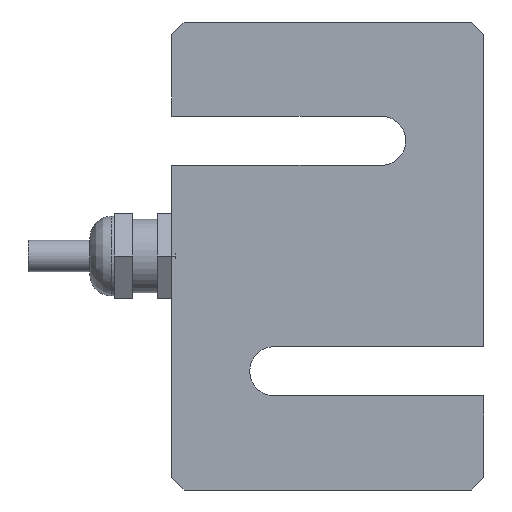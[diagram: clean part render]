
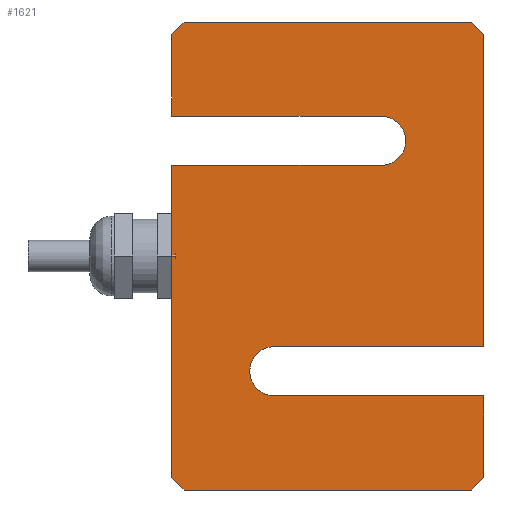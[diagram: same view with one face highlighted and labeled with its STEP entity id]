
A CAD part, front view. The second image highlights one B-rep face of the part: STEP entity #1621.
In plain terms, the highlighted planar face has unit normal (0, -1, 0).
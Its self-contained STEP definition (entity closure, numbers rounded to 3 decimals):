
#142=PLANE('',#1755);
#235=FACE_OUTER_BOUND('',#340,.T.);
#340=EDGE_LOOP('',(#1379,#1380,#1381,#1382,#1383,#1384,#1385,#1386,#1387,
#1388,#1389,#1390,#1391,#1392,#1393,#1394));
#445=LINE('',#6697,#571);
#447=LINE('',#6701,#573);
#450=LINE('',#6707,#576);
#451=LINE('',#6709,#577);
#452=LINE('',#6713,#578);
#453=LINE('',#6715,#579);
#454=LINE('',#6717,#580);
#455=LINE('',#6719,#581);
#456=LINE('',#6721,#582);
#457=LINE('',#6723,#583);
#458=LINE('',#6725,#584);
#459=LINE('',#6729,#585);
#460=LINE('',#6731,#586);
#461=LINE('',#6732,#587);
#571=VECTOR('',#2057,10.);
#573=VECTOR('',#2061,10.);
#576=VECTOR('',#2066,10.);
#577=VECTOR('',#2067,10.);
#578=VECTOR('',#2070,10.);
#579=VECTOR('',#2071,10.);
#580=VECTOR('',#2072,10.);
#581=VECTOR('',#2073,10.);
#582=VECTOR('',#2074,10.);
#583=VECTOR('',#2075,10.);
#584=VECTOR('',#2076,10.);
#585=VECTOR('',#2079,10.);
#586=VECTOR('',#2080,10.);
#587=VECTOR('',#2081,10.);
#640=CIRCLE('',#1756,4.);
#641=CIRCLE('',#1757,4.);
#763=VERTEX_POINT('',#6694);
#764=VERTEX_POINT('',#6696);
#765=VERTEX_POINT('',#6700);
#767=VERTEX_POINT('',#6706);
#768=VERTEX_POINT('',#6708);
#769=VERTEX_POINT('',#6710);
#770=VERTEX_POINT('',#6712);
#771=VERTEX_POINT('',#6714);
#772=VERTEX_POINT('',#6716);
#773=VERTEX_POINT('',#6718);
#774=VERTEX_POINT('',#6720);
#775=VERTEX_POINT('',#6722);
#776=VERTEX_POINT('',#6724);
#777=VERTEX_POINT('',#6726);
#778=VERTEX_POINT('',#6728);
#779=VERTEX_POINT('',#6730);
#975=EDGE_CURVE('',#763,#764,#445,.T.);
#977=EDGE_CURVE('',#765,#764,#447,.T.);
#980=EDGE_CURVE('',#763,#767,#450,.T.);
#981=EDGE_CURVE('',#767,#768,#451,.T.);
#982=EDGE_CURVE('',#768,#769,#640,.T.);
#983=EDGE_CURVE('',#769,#770,#452,.T.);
#984=EDGE_CURVE('',#770,#771,#453,.T.);
#985=EDGE_CURVE('',#772,#771,#454,.T.);
#986=EDGE_CURVE('',#772,#773,#455,.T.);
#987=EDGE_CURVE('',#774,#773,#456,.T.);
#988=EDGE_CURVE('',#774,#775,#457,.T.);
#989=EDGE_CURVE('',#775,#776,#458,.T.);
#990=EDGE_CURVE('',#776,#777,#641,.T.);
#991=EDGE_CURVE('',#777,#778,#459,.T.);
#992=EDGE_CURVE('',#778,#779,#460,.T.);
#993=EDGE_CURVE('',#765,#779,#461,.T.);
#1379=ORIENTED_EDGE('',*,*,#975,.F.);
#1380=ORIENTED_EDGE('',*,*,#980,.T.);
#1381=ORIENTED_EDGE('',*,*,#981,.T.);
#1382=ORIENTED_EDGE('',*,*,#982,.T.);
#1383=ORIENTED_EDGE('',*,*,#983,.T.);
#1384=ORIENTED_EDGE('',*,*,#984,.T.);
#1385=ORIENTED_EDGE('',*,*,#985,.F.);
#1386=ORIENTED_EDGE('',*,*,#986,.T.);
#1387=ORIENTED_EDGE('',*,*,#987,.F.);
#1388=ORIENTED_EDGE('',*,*,#988,.T.);
#1389=ORIENTED_EDGE('',*,*,#989,.T.);
#1390=ORIENTED_EDGE('',*,*,#990,.T.);
#1391=ORIENTED_EDGE('',*,*,#991,.T.);
#1392=ORIENTED_EDGE('',*,*,#992,.T.);
#1393=ORIENTED_EDGE('',*,*,#993,.F.);
#1394=ORIENTED_EDGE('',*,*,#977,.T.);
#1621=ADVANCED_FACE('',(#235),#142,.F.);
#1755=AXIS2_PLACEMENT_3D('',#6705,#2064,#2065);
#1756=AXIS2_PLACEMENT_3D('',#6711,#2068,#2069);
#1757=AXIS2_PLACEMENT_3D('',#6727,#2077,#2078);
#2057=DIRECTION('',(0.707,0.,0.707));
#2061=DIRECTION('',(-1.,0.,0.));
#2064=DIRECTION('center_axis',(0.,1.,0.));
#2065=DIRECTION('ref_axis',(1.,0.,0.));
#2066=DIRECTION('',(0.,0.,-1.));
#2067=DIRECTION('',(1.,0.,0.));
#2068=DIRECTION('center_axis',(0.,1.,0.));
#2069=DIRECTION('ref_axis',(0.,0.,1.));
#2070=DIRECTION('',(-1.,0.,0.));
#2071=DIRECTION('',(0.,0.,-1.));
#2072=DIRECTION('',(-0.707,0.,0.707));
#2073=DIRECTION('',(1.,0.,0.));
#2074=DIRECTION('',(-0.707,0.,-0.707));
#2075=DIRECTION('',(0.,0.,1.));
#2076=DIRECTION('',(-1.,0.,0.));
#2077=DIRECTION('center_axis',(0.,1.,0.));
#2078=DIRECTION('ref_axis',(0.,0.,-1.));
#2079=DIRECTION('',(1.,0.,0.));
#2080=DIRECTION('',(0.,0.,1.));
#2081=DIRECTION('',(0.707,0.,-0.707));
#6694=CARTESIAN_POINT('',(-25.4,-14.1,36.1));
#6696=CARTESIAN_POINT('',(-23.4,-14.1,38.1));
#6697=CARTESIAN_POINT('',(-27.575,-14.1,33.925));
#6700=CARTESIAN_POINT('',(23.4,-14.1,38.1));
#6701=CARTESIAN_POINT('',(25.4,-14.1,38.1));
#6705=CARTESIAN_POINT('Origin',(0.,-14.1,0.));
#6706=CARTESIAN_POINT('',(-25.4,-14.1,22.76));
#6707=CARTESIAN_POINT('',(-25.4,-14.1,38.1));
#6708=CARTESIAN_POINT('',(8.7,-14.1,22.76));
#6709=CARTESIAN_POINT('',(-25.4,-14.1,22.76));
#6710=CARTESIAN_POINT('',(8.7,-14.1,14.76));
#6711=CARTESIAN_POINT('Origin',(8.7,-14.1,18.76));
#6712=CARTESIAN_POINT('',(-25.4,-14.1,14.76));
#6713=CARTESIAN_POINT('',(-25.4,-14.1,14.76));
#6714=CARTESIAN_POINT('',(-25.4,-14.1,-36.1));
#6715=CARTESIAN_POINT('',(-25.4,-14.1,38.1));
#6716=CARTESIAN_POINT('',(-23.4,-14.1,-38.1));
#6717=CARTESIAN_POINT('',(-27.575,-14.1,-33.925));
#6718=CARTESIAN_POINT('',(23.4,-14.1,-38.1));
#6719=CARTESIAN_POINT('',(-25.4,-14.1,-38.1));
#6720=CARTESIAN_POINT('',(25.4,-14.1,-36.1));
#6721=CARTESIAN_POINT('',(27.575,-14.1,-33.925));
#6722=CARTESIAN_POINT('',(25.4,-14.1,-22.76));
#6723=CARTESIAN_POINT('',(25.4,-14.1,-38.1));
#6724=CARTESIAN_POINT('',(-8.7,-14.1,-22.76));
#6725=CARTESIAN_POINT('',(25.4,-14.1,-22.76));
#6726=CARTESIAN_POINT('',(-8.7,-14.1,-14.76));
#6727=CARTESIAN_POINT('Origin',(-8.7,-14.1,-18.76));
#6728=CARTESIAN_POINT('',(25.4,-14.1,-14.76));
#6729=CARTESIAN_POINT('',(25.4,-14.1,-14.76));
#6730=CARTESIAN_POINT('',(25.4,-14.1,36.1));
#6731=CARTESIAN_POINT('',(25.4,-14.1,-38.1));
#6732=CARTESIAN_POINT('',(27.575,-14.1,33.925));
